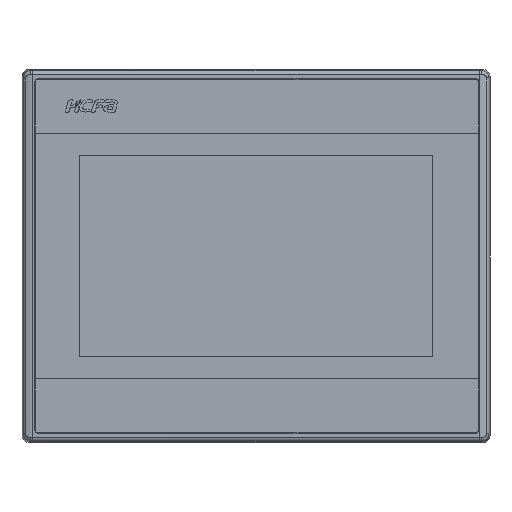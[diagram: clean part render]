
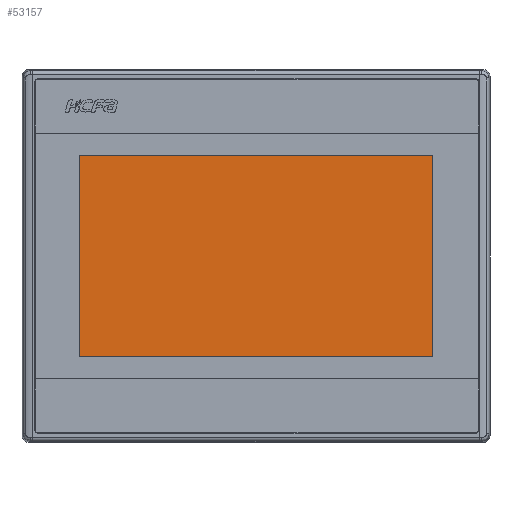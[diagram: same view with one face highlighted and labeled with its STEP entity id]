
A CAD part, top view. The second image highlights one B-rep face of the part: STEP entity #53157.
In plain terms, the highlighted planar face has unit normal (0, 0, 1).
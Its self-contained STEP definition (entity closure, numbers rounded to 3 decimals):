
#53078=CARTESIAN_POINT('',(-48.325,27.6,4.79));
#53079=VERTEX_POINT('',#53078);
#53086=CARTESIAN_POINT('',(48.325,27.6,4.79));
#53087=VERTEX_POINT('',#53086);
#53088=CARTESIAN_POINT('',(48.325,27.6,4.79));
#53089=DIRECTION('',(-1.,0.,0.));
#53090=VECTOR('',#53089,96.65);
#53091=LINE('',#53088,#53090);
#53092=EDGE_CURVE('',#53087,#53079,#53091,.T.);
#53117=CARTESIAN_POINT('',(48.325,-27.6,4.79));
#53118=VERTEX_POINT('',#53117);
#53119=CARTESIAN_POINT('',(48.325,-27.6,4.79));
#53120=DIRECTION('',(0.,1.,0.));
#53121=VECTOR('',#53120,55.2);
#53122=LINE('',#53119,#53121);
#53123=EDGE_CURVE('',#53118,#53087,#53122,.T.);
#53134=CARTESIAN_POINT('',(60.,-47.5,4.79));
#53135=DIRECTION('',(-1.,0.,0.));
#53136=DIRECTION('',(0.,0.,1.));
#53137=AXIS2_PLACEMENT_3D('',#53134,#53136,#53135);
#53138=PLANE('',#53137);
#53139=ORIENTED_EDGE('',*,*,#53092,.T.);
#53140=CARTESIAN_POINT('',(-48.325,-27.6,4.79));
#53141=VERTEX_POINT('',#53140);
#53142=CARTESIAN_POINT('',(-48.325,27.6,4.79));
#53143=DIRECTION('',(0.,-1.,0.));
#53144=VECTOR('',#53143,55.2);
#53145=LINE('',#53142,#53144);
#53146=EDGE_CURVE('',#53079,#53141,#53145,.T.);
#53147=ORIENTED_EDGE('',*,*,#53146,.T.);
#53148=CARTESIAN_POINT('',(-48.325,-27.6,4.79));
#53149=DIRECTION('',(1.,0.,0.));
#53150=VECTOR('',#53149,96.65);
#53151=LINE('',#53148,#53150);
#53152=EDGE_CURVE('',#53141,#53118,#53151,.T.);
#53153=ORIENTED_EDGE('',*,*,#53152,.T.);
#53154=ORIENTED_EDGE('',*,*,#53123,.T.);
#53155=EDGE_LOOP('',(#53139,#53147,#53153,#53154));
#53156=FACE_OUTER_BOUND('',#53155,.T.);
#53157=ADVANCED_FACE('',(#53156),#53138,.T.);
